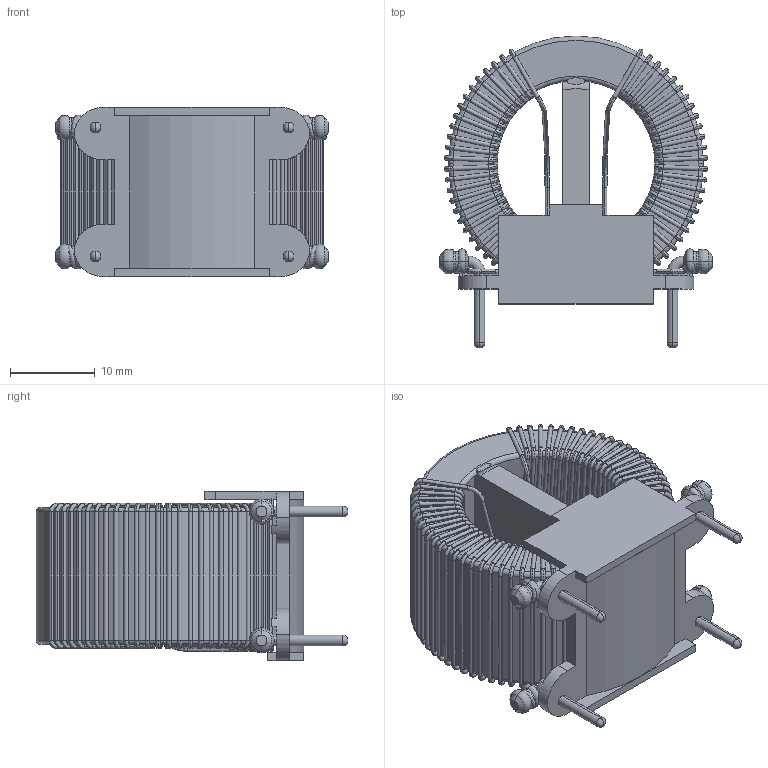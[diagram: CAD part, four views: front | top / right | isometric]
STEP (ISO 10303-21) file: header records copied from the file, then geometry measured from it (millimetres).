
FILE_DESCRIPTION (( 'STEP AP203' ), '1' );
FILE_NAME ('PM-16-303U-2.5A  .STEP', '2021-01-23T08:03:55', ( '' ), ( '' ), 'SwSTEP 2.0', 'SolidWorks 2015', '' );
FILE_SCHEMA (( 'CONFIG_CONTROL_DESIGN' ));
Length unit declared in the file: millimetre
Products named in the file (6): PM-16-303U-2.5A牋; CORE; EPOXY; BASE; WINDING; SPACER
Assembly tree (5 placements, depth 2):
  PM-16-303U-2.5A牋
    BASE
    CORE
    SPACER
    WINDING
    EPOXY
Bounding box: 32.32 x 36.89 x 20 mm (x, y, z)
Volume: 9433.7 mm3; surface area: 10189.8 mm2
Topology: 15 solids, 16 shells, 1196 faces, 3308 edges, 2140 vertices
Faces by surface type: cylinder 585, torus 494, plane 81, bspline 20, cone 16
Entity records: 44760 total; most frequent: CARTESIAN_POINT 11450, DIRECTION 8106, ORIENTED_EDGE 6616, AXIS2_PLACEMENT_3D 3680, EDGE_CURVE 3308, CIRCLE 2496, VERTEX_POINT 2140, EDGE_LOOP 1206
